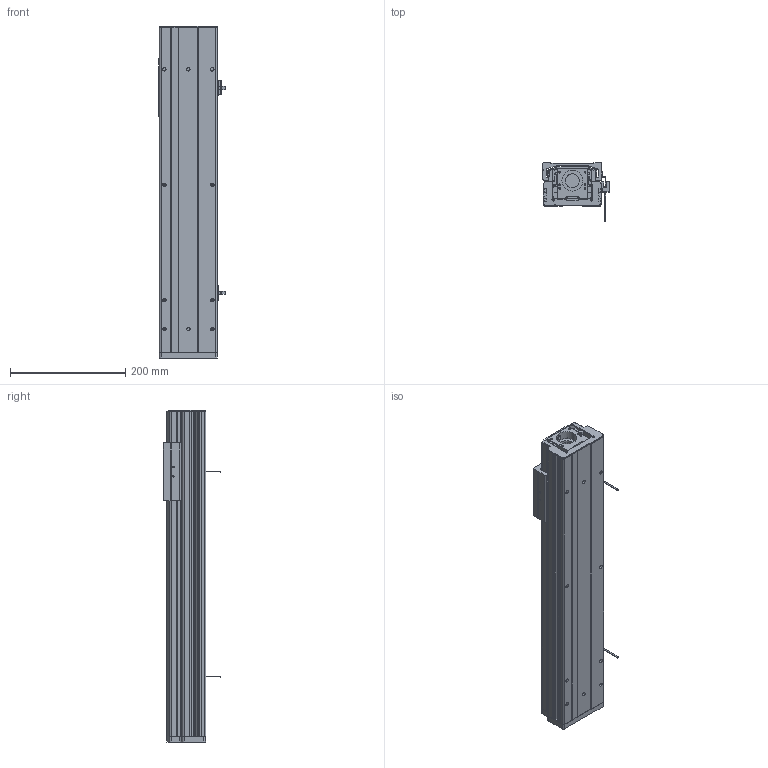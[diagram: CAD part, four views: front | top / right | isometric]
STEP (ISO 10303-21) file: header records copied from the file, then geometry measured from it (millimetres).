
FILE_DESCRIPTION (( 'STEP AP203' ), '1' );
FILE_NAME ('CTHM10-S350-O-BC - 副本.STEP', '2019-12-18T01:15:46', ( '微软用户' ), ( '微软中国' ), 'SwSTEP 2.0', 'SolidWorks 2017', '' );
FILE_SCHEMA (( 'CONFIG_CONTROL_DESIGN' ));
Length unit declared in the file: millimetre
Products named in the file (11): CTHM10傷裔(祥結裔啣); CTHM10綴傷裔; 覜茼え; 遣喳蝶15x12x8; CTHM10菁釱(200); EE-SX672-BR; CTHM10痄雄釱(党蜊); CTHM10-S350-O-BC - 萵掛; CTHM10盓傅耜; CTHM10固定侧自制轴承座; CTHM10裔啣(100)
Assembly tree (14 placements, depth 2):
  CTHM10-S350-O-BC - 萵掛
    CTHM10菁釱(200)
    CTHM10痄雄釱(党蜊)
    CTHM10盓傅耜
    CTHM10固定侧自制轴承座
    CTHM10裔啣(100)
    CTHM10傷裔(祥結裔啣)
    CTHM10綴傷裔
    覜茼え
    遣喳蝶15x12x8  x4
    EE-SX672-BR  x2
Bounding box: 114.7 x 100.2 x 575 mm (x, y, z)
Volume: 1643727.8 mm3; surface area: 557526 mm2
Topology: 14 solids, 14 shells, 940 faces, 2662 edges, 1736 vertices
Faces by surface type: cylinder 501, plane 395, cone 44
Entity records: 31793 total; most frequent: CARTESIAN_POINT 7669, DIRECTION 4832, ORIENTED_EDGE 4796, EDGE_CURVE 2398, AXIS2_PLACEMENT_3D 1765, VERTEX_POINT 1584, LINE 1302, VECTOR 1302
